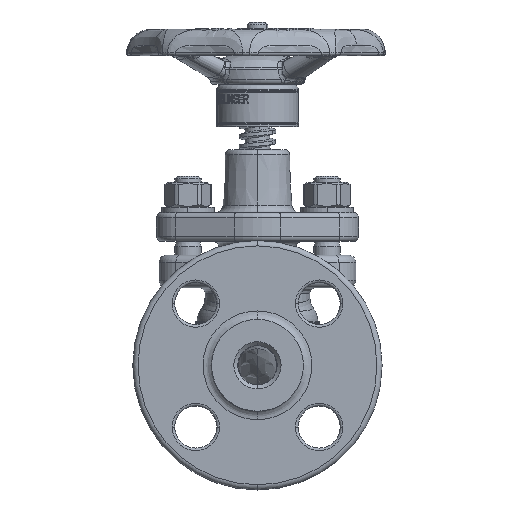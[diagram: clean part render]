
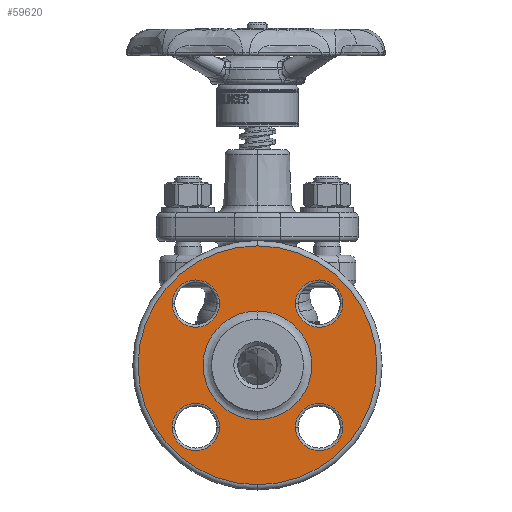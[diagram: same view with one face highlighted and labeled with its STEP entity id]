
A CAD part, left-side view. The second image highlights one B-rep face of the part: STEP entity #59620.
In plain terms, the highlighted planar face has unit normal (-1, 0, 0).
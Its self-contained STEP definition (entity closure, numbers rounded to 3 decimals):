
#12894=CARTESIAN_POINT('',(-74.4,0.,0.));
#12895=DIRECTION('',(1.,0.,0.));
#12896=DIRECTION('',(0.,0.,-1.));
#12897=AXIS2_PLACEMENT_3D('',#12894,#12895,#12896);
#12899=CARTESIAN_POINT('',(-74.4,0.,0.));
#12900=DIRECTION('',(1.,0.,0.));
#12901=DIRECTION('',(0.,0.,1.));
#12902=AXIS2_PLACEMENT_3D('',#12899,#12900,#12901);
#12904=CARTESIAN_POINT('',(-74.4,0.,0.));
#12905=DIRECTION('',(1.,0.,0.));
#12906=DIRECTION('',(0.,0.,-1.));
#12907=AXIS2_PLACEMENT_3D('',#12904,#12905,#12906);
#12909=CARTESIAN_POINT('',(-74.4,0.,0.));
#12910=DIRECTION('',(-1.,0.,0.));
#12911=DIRECTION('',(0.,0.,-1.));
#12912=AXIS2_PLACEMENT_3D('',#12909,#12910,#12911);
#12914=CARTESIAN_POINT('',(-74.4,23.511,23.511));
#12915=DIRECTION('',(1.,0.,0.));
#12916=DIRECTION('',(0.,1.,0.));
#12917=AXIS2_PLACEMENT_3D('',#12914,#12915,#12916);
#12919=CARTESIAN_POINT('',(-74.4,23.511,23.511));
#12920=DIRECTION('',(1.,0.,0.));
#12921=DIRECTION('',(0.,-1.,0.));
#12922=AXIS2_PLACEMENT_3D('',#12919,#12920,#12921);
#12924=CARTESIAN_POINT('',(-74.4,23.511,-23.511));
#12925=DIRECTION('',(1.,0.,0.));
#12926=DIRECTION('',(0.,1.,0.));
#12927=AXIS2_PLACEMENT_3D('',#12924,#12925,#12926);
#12929=CARTESIAN_POINT('',(-74.4,23.511,-23.511));
#12930=DIRECTION('',(1.,0.,0.));
#12931=DIRECTION('',(0.,-1.,0.));
#12932=AXIS2_PLACEMENT_3D('',#12929,#12930,#12931);
#12934=CARTESIAN_POINT('',(-74.4,-23.511,-23.511));
#12935=DIRECTION('',(1.,0.,0.));
#12936=DIRECTION('',(0.,1.,0.));
#12937=AXIS2_PLACEMENT_3D('',#12934,#12935,#12936);
#12939=CARTESIAN_POINT('',(-74.4,-23.511,-23.511));
#12940=DIRECTION('',(1.,0.,0.));
#12941=DIRECTION('',(0.,-1.,0.));
#12942=AXIS2_PLACEMENT_3D('',#12939,#12940,#12941);
#12944=CARTESIAN_POINT('',(-74.4,-23.511,23.511));
#12945=DIRECTION('',(1.,0.,0.));
#12946=DIRECTION('',(0.,1.,0.));
#12947=AXIS2_PLACEMENT_3D('',#12944,#12945,#12946);
#12949=CARTESIAN_POINT('',(-74.4,-23.511,23.511));
#12950=DIRECTION('',(1.,0.,0.));
#12951=DIRECTION('',(0.,-1.,0.));
#12952=AXIS2_PLACEMENT_3D('',#12949,#12950,#12951);
#34825=CARTESIAN_POINT('',(-74.4,32.511,23.511));
#34826=CARTESIAN_POINT('',(-74.4,14.511,23.511));
#34827=VERTEX_POINT('',#34825);
#34828=VERTEX_POINT('',#34826);
#34829=CARTESIAN_POINT('',(-74.4,32.511,-23.511));
#34830=CARTESIAN_POINT('',(-74.4,14.511,-23.511));
#34831=VERTEX_POINT('',#34829);
#34832=VERTEX_POINT('',#34830);
#34833=CARTESIAN_POINT('',(-74.4,-14.511,-23.511));
#34834=CARTESIAN_POINT('',(-74.4,-32.511,-23.511));
#34835=VERTEX_POINT('',#34833);
#34836=VERTEX_POINT('',#34834);
#34837=CARTESIAN_POINT('',(-74.4,-14.511,23.511));
#34838=CARTESIAN_POINT('',(-74.4,-32.511,23.511));
#34839=VERTEX_POINT('',#34837);
#34840=VERTEX_POINT('',#34838);
#34857=CARTESIAN_POINT('',(-74.4,0.,-45.5));
#34858=CARTESIAN_POINT('',(-74.4,0.,45.5));
#34859=VERTEX_POINT('',#34857);
#34860=VERTEX_POINT('',#34858);
#35656=CARTESIAN_POINT('',(-74.4,0.,-20.7));
#35657=CARTESIAN_POINT('',(-74.4,0.,20.7));
#35658=VERTEX_POINT('',#35656);
#35659=VERTEX_POINT('',#35657);
#59581=CARTESIAN_POINT('',(-74.4,0.,0.));
#59582=DIRECTION('',(-1.,0.,0.));
#59583=DIRECTION('',(0.,0.,1.));
#59584=AXIS2_PLACEMENT_3D('',#59581,#59582,#59583);
#59585=PLANE('',#59584);
#59586=ORIENTED_EDGE('',*,*,#59561,.T.);
#59587=ORIENTED_EDGE('',*,*,#59575,.T.);
#59588=EDGE_LOOP('',(#59586,#59587));
#59589=FACE_OUTER_BOUND('',#59588,.F.);
#59591=ORIENTED_EDGE('',*,*,#59590,.F.);
#59593=ORIENTED_EDGE('',*,*,#59592,.T.);
#59594=EDGE_LOOP('',(#59591,#59593));
#59595=FACE_BOUND('',#59594,.F.);
#59597=ORIENTED_EDGE('',*,*,#59596,.F.);
#59599=ORIENTED_EDGE('',*,*,#59598,.F.);
#59600=EDGE_LOOP('',(#59597,#59599));
#59601=FACE_BOUND('',#59600,.F.);
#59603=ORIENTED_EDGE('',*,*,#59602,.F.);
#59605=ORIENTED_EDGE('',*,*,#59604,.F.);
#59606=EDGE_LOOP('',(#59603,#59605));
#59607=FACE_BOUND('',#59606,.F.);
#59609=ORIENTED_EDGE('',*,*,#59608,.F.);
#59611=ORIENTED_EDGE('',*,*,#59610,.F.);
#59612=EDGE_LOOP('',(#59609,#59611));
#59613=FACE_BOUND('',#59612,.F.);
#59615=ORIENTED_EDGE('',*,*,#59614,.F.);
#59617=ORIENTED_EDGE('',*,*,#59616,.F.);
#59618=EDGE_LOOP('',(#59615,#59617));
#59619=FACE_BOUND('',#59618,.F.);
#59620=ADVANCED_FACE('',(#59589,#59595,#59601,#59607,#59613,#59619),#59585,.T.);
#12898=CIRCLE('',#12897,45.5);
#12903=CIRCLE('',#12902,45.5);
#12908=CIRCLE('',#12907,20.7);
#12913=CIRCLE('',#12912,20.7);
#12918=CIRCLE('',#12917,9.);
#12923=CIRCLE('',#12922,9.);
#12928=CIRCLE('',#12927,9.);
#12933=CIRCLE('',#12932,9.);
#12938=CIRCLE('',#12937,9.);
#12943=CIRCLE('',#12942,9.);
#12948=CIRCLE('',#12947,9.);
#12953=CIRCLE('',#12952,9.);
#59561=EDGE_CURVE('',#34859,#34860,#12898,.T.);
#59575=EDGE_CURVE('',#34860,#34859,#12903,.T.);
#59590=EDGE_CURVE('',#35658,#35659,#12908,.T.);
#59592=EDGE_CURVE('',#35658,#35659,#12913,.T.);
#59596=EDGE_CURVE('',#34827,#34828,#12918,.T.);
#59598=EDGE_CURVE('',#34828,#34827,#12923,.T.);
#59602=EDGE_CURVE('',#34831,#34832,#12928,.T.);
#59604=EDGE_CURVE('',#34832,#34831,#12933,.T.);
#59608=EDGE_CURVE('',#34835,#34836,#12938,.T.);
#59610=EDGE_CURVE('',#34836,#34835,#12943,.T.);
#59614=EDGE_CURVE('',#34839,#34840,#12948,.T.);
#59616=EDGE_CURVE('',#34840,#34839,#12953,.T.);
